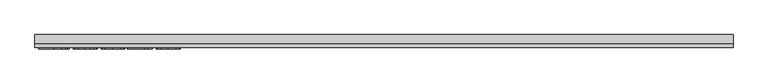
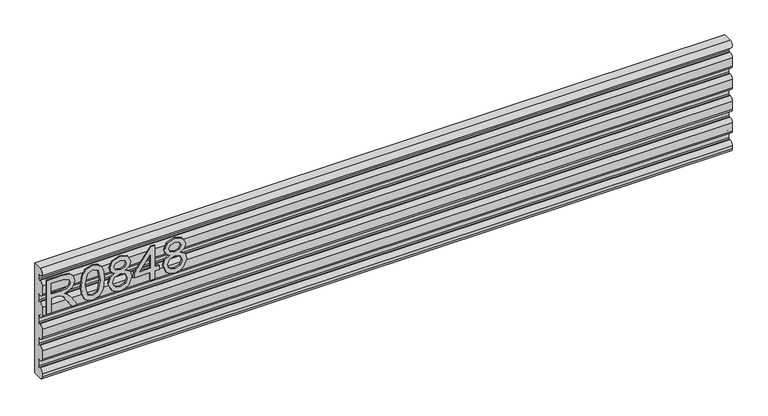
"""IFC4 building model written with IfcOpenShell, lengths in millimetres: furniture geometry."""

import ifcopenshell
import ifcopenshell.guid

model = None  # the IFC model being written
_history = None  # IfcOwnerHistory: only IFC2X3 demands one
_inside = {}  # id of a spatial element -> (the spatial element, [elements in it])
_under = {}  # id of a project, library or spatial element -> (it, [spatial elements below it])
_declared = {}  # id of a project -> (the project, [libraries it declares])
_typed = {}  # id of a type object -> (the type object, [elements of that type])
_made_of = {}  # id of a material, layer set ... -> (it, [elements and type objects made of it])


def new_model(schema):
    """Start an empty IFC model of exactly this schema.

    Asked for "IFC4X3", IfcOpenShell would pick the latest addendum, in which some entities
    have other attributes; the version numbers below select the first issue.
    IFC2X3 requires an IfcOwnerHistory on every rooted entity: one is made here for all.
    """
    global model, _history
    if schema == "IFC4X3":
        model = ifcopenshell.file(schema_version=(4, 3, 0, 0))
    else:
        model = ifcopenshell.file(schema=schema)
    _inside.clear()
    _under.clear()
    _declared.clear()
    _typed.clear()
    _made_of.clear()
    _history = None
    if model.schema == "IFC2X3":
        org = make("IfcOrganization", Name="unknown")
        user = make(
            "IfcPersonAndOrganization",
            ThePerson=make("IfcPerson", FamilyName="unknown"),
            TheOrganization=org,
        )
        app = make(
            "IfcApplication",
            ApplicationDeveloper=org,
            Version="unknown",
            ApplicationFullName="unknown",
            ApplicationIdentifier="unknown",
        )
        _history = make(
            "IfcOwnerHistory",
            OwningUser=user,
            OwningApplication=app,
            ChangeAction="ADDED",
            CreationDate=0,
        )
    return model


def make(cls, **values):
    """One entity of the class cls with the attributes given. An attribute that is None is left unset."""
    return model.create_entity(
        cls, **{name: value for name, value in values.items() if value is not None}
    )


def rooted(cls, **values):
    """An entity with a GlobalId (a new one), such as an element, a storey or a relation."""
    return make(cls, GlobalId=ifcopenshell.guid.new(), OwnerHistory=_history, **values)


def si_unit(unit_type, name, prefix=None):
    """IfcSIUnit, for example si_unit("LENGTHUNIT", "METRE", prefix="MILLI")."""
    return make("IfcSIUnit", UnitType=unit_type, Prefix=prefix, Name=name)


def assignment(units):
    """IfcUnitAssignment: the units of a project."""
    return None if units is None else make("IfcUnitAssignment", Units=units)


def point(xyz):
    """IfcCartesianPoint."""
    return None if xyz is None else make("IfcCartesianPoint", Coordinates=xyz)


def direction(xyz):
    """IfcDirection."""
    return None if xyz is None else make("IfcDirection", DirectionRatios=xyz)


def frame(location, z_axis=None, x_axis=None):
    """IfcAxis2Placement3D, a coordinate frame: its origin and axes. An axis left out is left unset."""
    return make(
        "IfcAxis2Placement3D",
        Location=point(location),
        Axis=direction(z_axis),
        RefDirection=direction(x_axis),
    )


def frame_2d(location, x_axis=None):
    """IfcAxis2Placement2D, a coordinate frame in the plane: its origin and x axis."""
    return make(
        "IfcAxis2Placement2D", Location=point(location), RefDirection=direction(x_axis)
    )


def origin():
    """The frame at (0, 0, 0) with its axes left unset."""
    return frame((0.0, 0.0, 0.0))


def place(relative_to, where):
    """IfcLocalPlacement: puts the frame where relative to a parent placement (None: the world)."""
    return make(
        "IfcLocalPlacement", PlacementRelTo=relative_to, RelativePlacement=where
    )


def context(
    kind, dimensions, precision=None, world=None, true_north=None, identifier=None
):
    """IfcGeometricRepresentationContext, for example the 3D "Model" context."""
    return make(
        "IfcGeometricRepresentationContext",
        ContextIdentifier=identifier,
        ContextType=kind,
        CoordinateSpaceDimension=dimensions,
        Precision=precision,
        WorldCoordinateSystem=world,
        TrueNorth=true_north,
    )


def project(units=None, contexts=None):
    """IfcProject with its units and contexts."""
    return rooted(
        "IfcProject",
        Name="project",
        RepresentationContexts=contexts,
        UnitsInContext=assignment(units),
    )


def spatial(cls, under=None, at=None, **own):
    """A site, building, storey or space (cls), placed at a placement, below another one or the project."""
    s = rooted(cls, ObjectPlacement=at, **own)
    if under is not None:
        _under.setdefault(under.id(), (under, []))[1].append(s)
    return s


def polyline(points):
    """IfcPolyline through the points."""
    return make("IfcPolyline", Points=[point(p) for p in points])


def circle_curve(where, radius):
    """IfcCircle in the frame where."""
    return make("IfcCircle", Position=where, Radius=radius)


def trimmed(basis, trim1, trim2, sense, master):
    """IfcTrimmedCurve: the piece of a basis curve between two trims."""
    return make(
        "IfcTrimmedCurve",
        BasisCurve=basis,
        Trim1=trim1,
        Trim2=trim2,
        SenseAgreement=sense,
        MasterRepresentation=master,
    )


def segment(curve, same_sense, transition):
    """IfcCompositeCurveSegment."""
    return make(
        "IfcCompositeCurveSegment",
        Transition=transition,
        SameSense=same_sense,
        ParentCurve=curve,
    )


def composite_curve(segments, self_intersect=None):
    """IfcCompositeCurve: segments joined end to end."""
    return make("IfcCompositeCurve", Segments=segments, SelfIntersect=self_intersect)


def outline(outer, holes=None, kind="AREA"):
    """IfcArbitraryClosedProfileDef: a profile drawn as a closed curve; with holes, ...WithVoids."""
    if holes is None:
        return make("IfcArbitraryClosedProfileDef", ProfileType=kind, OuterCurve=outer)
    return make(
        "IfcArbitraryProfileDefWithVoids",
        ProfileType=kind,
        OuterCurve=outer,
        InnerCurves=holes,
    )


def extrude(swept, where, along, depth):
    """IfcExtrudedAreaSolid: the profile swept, set in the frame where, extruded along a direction by depth."""
    return make(
        "IfcExtrudedAreaSolid",
        SweptArea=swept,
        Position=where,
        ExtrudedDirection=direction(along),
        Depth=depth,
    )


def shape(context_of_items, identifier, shape_type, items):
    """IfcShapeRepresentation: the items that make up one representation, for example the "Body"."""
    return make(
        "IfcShapeRepresentation",
        ContextOfItems=context_of_items,
        RepresentationIdentifier=identifier,
        RepresentationType=shape_type,
        Items=items,
    )


def source(mapping_origin, context_of_items, identifier, shape_type, items):
    """IfcRepresentationMap: a shape defined once, which mapped items show again and again."""
    return make(
        "IfcRepresentationMap",
        MappingOrigin=mapping_origin,
        MappedRepresentation=shape(context_of_items, identifier, shape_type, items),
    )


def transform(
    local_origin,
    x_axis=None,
    y_axis=None,
    z_axis=None,
    scale=None,
    scale2=None,
    scale3=None,
    uniform=True,
):
    """IfcCartesianTransformationOperator3D, or its non-uniform kind. x_axis, y_axis, z_axis: its Axis1, 2, 3."""
    if uniform:
        return make(
            "IfcCartesianTransformationOperator3D",
            Axis1=direction(x_axis),
            Axis2=direction(y_axis),
            LocalOrigin=point(local_origin),
            Scale=scale,
            Axis3=direction(z_axis),
        )
    return make(
        "IfcCartesianTransformationOperator3DnonUniform",
        Axis1=direction(x_axis),
        Axis2=direction(y_axis),
        LocalOrigin=point(local_origin),
        Scale=scale,
        Axis3=direction(z_axis),
        Scale2=scale2,
        Scale3=scale3,
    )


def mapped(mapping_source, mapping_target):
    """IfcMappedItem: shows the shape of a source again, moved by a transform."""
    return make(
        "IfcMappedItem", MappingSource=mapping_source, MappingTarget=mapping_target
    )


def made_of(thing, what):
    """Note that an element or type object is made of a material, layer set ...; save() writes the relation."""
    if what is not None:
        _made_of.setdefault(what.id(), (what, []))[1].append(thing)
    return thing


def element(
    cls,
    number,
    at=None,
    inside=None,
    cuts=None,
    type_object=None,
    material=None,
    context=None,
    identifier="Body",
    shape_type=None,
    held_by="IfcProductDefinitionShape",
    body=None,
    shapes=None,
    **own,
):
    """One element of the class cls, such as IfcWall. Its Tag is "e" and its number.

    at: its placement. inside: the storey or other place that contains it. cuts: it is an
    opening in that element (IfcRelVoidsElement). A single representation is given by context,
    identifier, shape_type and body (its items); several are given by shapes. held_by: the class
    of the entity that holds the representations. save() writes the other relations.
    """
    e = rooted(cls, Tag="e%d" % number, ObjectPlacement=at, **own)
    if body is not None:
        shapes = [shape(context, identifier, shape_type, body)]
    if shapes is not None:
        e.Representation = make(held_by, Representations=shapes)
    if inside is not None:
        _inside.setdefault(inside.id(), (inside, []))[1].append(e)
    if cuts is not None:
        rooted(
            "IfcRelVoidsElement", RelatingBuildingElement=cuts, RelatedOpeningElement=e
        )
    if type_object is not None:
        _typed.setdefault(type_object.id(), (type_object, []))[1].append(e)
    return made_of(e, material)


def aggregate(whole, parts):
    """IfcRelAggregates: a whole, such as a stair, and the parts it consists of."""
    return rooted("IfcRelAggregates", RelatingObject=whole, RelatedObjects=parts)


def save(model, path):
    """Write the relations noted so far, then the file.

    IfcRelAggregates (storeys below a building ...), IfcRelContainedInSpatialStructure (elements
    in a storey), IfcRelDefinesByType, IfcRelAssociatesMaterial and IfcRelDeclares: one each for
    every whole, place, type object, material and project.
    """
    for whole, parts in _under.values():
        aggregate(whole, parts)
    for where, things in _inside.values():
        rooted(
            "IfcRelContainedInSpatialStructure",
            RelatedElements=things,
            RelatingStructure=where,
        )
    for kind, things in _typed.values():
        rooted("IfcRelDefinesByType", RelatedObjects=things, RelatingType=kind)
    for what, things in _made_of.values():
        rooted("IfcRelAssociatesMaterial", RelatedObjects=things, RelatingMaterial=what)
    for by, libraries in _declared.values():
        rooted("IfcRelDeclares", RelatingContext=by, RelatedDefinitions=libraries)
    model.write(path)


def furniture_25a45a0c(model_context):
    return source(origin(), model_context, "Body", "SweptSolid", [
        extrude(outline(polyline([(882.65, -596.4115385), (882.65, -588.5961538), (910.0038462, -588.5961538), (910.0038462, -579.1627404), (909.7290865, -574.6292067), (908.2408053, -570.9123197), (904.188101, -566.7832933), (895.6094952, -560.9064904), (882.65, -552.7705529), (882.65, -543.6882212), (899.5935096, -554.1138221), (907.6378606, -560.4485577), (910.9807692, -564.8905048), (916.7965144, -551.801262), (928.0616587, -547.5653846), (937.5179688, -550.1221755), (943.4863582, -556.960637), (945.1730769, -569.4698317), (945.1730769, -596.4115385), (882.65, -596.4115385)]), holes=[polyline([(917.8192308, -588.5961538), (937.3576923, -588.5961538), (937.3576923, -569.1340144), (934.6558894, -558.6855168), (927.7716346, -555.3807692), (922.4672476, -557.1132812), (918.9259014, -562.1810697), (917.8192308, -571.103125), (917.8192308, -588.5961538)])]), frame((0.0, -24.60625, 0.0), z_axis=(0.0, 1.0, 0.0), x_axis=(0.0, 0.0, 1.0)), (0.0, 0.0, 1.0), 2.38125),
        extrude(outline(polyline([(913.4078125, -536.8192308), (898.200631, -535.2622596), (887.6262019, -530.5913462), (883.1613582, -524.4245192), (881.6730769, -516.3038462), (885.0999399, -504.8631611), (895.495012, -498.0628606), (913.4078125, -495.7884615), (928.0998197, -497.2080529), (937.3500601, -500.8715144), (943.1581731, -507.1757212), (945.1730769, -516.3038462), (941.7691106, -527.698738), (931.3969351, -534.5219351), (913.4078125, -536.8192308)]), holes=[polyline([(913.4230769, -529.0038462), (933.1752404, -525.2182692), (937.3576923, -516.3954327), (932.6104567, -507.1451923), (913.4230769, -503.6038462), (894.0296274, -507.2673077), (889.4884615, -516.3038462), (894.014363, -525.3403846), (913.4230769, -529.0038462)])]), frame((0.0, -24.60625, 0.0), z_axis=(0.0, 1.0, 0.0), x_axis=(0.0, 0.0, 1.0)), (0.0, 0.0, 1.0), 2.38125),
        extrude(outline(polyline([(917.0865385, -477.5627404), (911.4081731, -485.9887019), (901.0588942, -488.95), (887.2216947, -483.3021635), (883.0602314, -476.7613582), (881.6730769, -468.4346154), (883.0545072, -460.1078726), (887.1987981, -453.5670673), (900.8451923, -447.9192308), (910.9578726, -450.7660457), (917.0865385, -459.077524), (921.9177284, -452.1551082), (929.2828125, -449.8730769), (940.5479567, -455.0019231), (945.1730769, -468.5414663), (940.6548077, -481.9588942), (929.4965144, -486.9961538), (921.940625, -484.6835937), (917.0865385, -477.5627404)]), holes=[polyline([(901.3336538, -481.1346154), (909.6222356, -477.8298678), (912.9346154, -468.6330529), (909.5764423, -459.1691106), (901.0894231, -455.7346154), (892.7626803, -459.0622596), (889.4884615, -468.3735577), (891.0454327, -475.2120192), (895.4492188, -479.8295072), (901.3336538, -481.1346154)]), polyline([(929.2675481, -479.1807692), (934.9764423, -476.3644832), (937.3576923, -468.4346154), (934.9230168, -460.5276442), (928.9164663, -457.6884615), (923.1159856, -460.4360577), (920.75, -468.3430288), (923.13125, -476.4102764), (929.2675481, -479.1807692)])]), frame((0.0, -24.60625, 0.0), z_axis=(0.0, 1.0, 0.0), x_axis=(0.0, 0.0, 1.0)), (0.0, 0.0, 1.0), 2.38125),
        extrude(outline(polyline([(882.65, -415.6807692), (882.65, -407.8653846), (897.3038462, -407.8653846), (897.3038462, -400.05), (905.1192308, -400.05), (905.1192308, -407.8653846), (944.1961538, -407.8653846), (944.1961538, -413.7269231), (905.1192308, -444.0115385), (897.3038462, -444.0115385), (897.3038462, -415.6807692), (882.65, -415.6807692)]), holes=[polyline([(905.1192308, -415.6807692), (905.1192308, -434.3949519), (929.2675481, -415.6807692), (905.1192308, -415.6807692)])]), frame((0.0, -24.60625, 0.0), z_axis=(0.0, 1.0, 0.0), x_axis=(0.0, 0.0, 1.0)), (0.0, 0.0, 1.0), 2.38125),
        extrude(outline(polyline([(917.0865385, -381.8242788), (911.4081731, -390.2502404), (901.0588942, -393.2115385), (887.2216947, -387.5637019), (883.0602314, -381.0228966), (881.6730769, -372.6961538), (883.0545072, -364.3694111), (887.1987981, -357.8286058), (900.8451923, -352.1807692), (910.9578726, -355.0275841), (917.0865385, -363.3390625), (921.9177284, -356.4166466), (929.2828125, -354.1346154), (940.5479567, -359.2634615), (945.1730769, -372.8030048), (940.6548077, -386.2204327), (929.4965144, -391.2576923), (921.940625, -388.9451322), (917.0865385, -381.8242788)]), holes=[polyline([(929.2675481, -383.4423077), (934.9764423, -380.6260216), (937.3576923, -372.6961538), (934.9230168, -364.7891827), (928.9164663, -361.95), (923.1159856, -364.6975962), (920.75, -372.6045673), (923.13125, -380.6718149), (929.2675481, -383.4423077)]), polyline([(901.3336538, -385.3961538), (909.6222356, -382.0914062), (912.9346154, -372.8945913), (909.5764423, -363.430649), (901.0894231, -359.9961538), (892.7626803, -363.3237981), (889.4884615, -372.6350962), (891.0454327, -379.4735577), (895.4492188, -384.0910457), (901.3336538, -385.3961538)])]), frame((0.0, -24.60625, 0.0), z_axis=(0.0, 1.0, 0.0), x_axis=(0.0, 0.0, 1.0)), (0.0, 0.0, 1.0), 2.38125),
        extrude(outline(composite_curve([segment(polyline([(-15.8760163, 965.1962603), (0.0, 965.1987579), (0.0, 762.0024959), (-15.875, 762.0024959)]), True, "CONTINUOUS"), segment(trimmed(circle_curve(frame_2d((-15.875, 768.3499997)), 6.3475038), [point((-15.875, 762.0024959))], [point((-22.2225037, 768.3499997))], False, "CARTESIAN"), True, "CONTINUOUS"), segment(polyline([(-22.2225037, 768.3499997), (-22.2225037, 774.1565144)]), True, "CONTINUOUS"), segment(trimmed(circle_curve(frame_2d((-15.8749436, 774.1565144)), 6.3475601), [point((-22.2225037, 774.1565144))], [point((-15.0857075, 780.4548178))], False, "CARTESIAN"), True, "CONTINUOUS"), segment(trimmed(circle_curve(frame_2d((-1.1337042, 863.6935017)), 84.3998631), [point((-15.0857075, 780.4548178))], [point((-12.9059563, 780.1186791))], True, "CARTESIAN"), True, "CONTINUOUS"), segment(trimmed(circle_curve(frame_2d((-12.700446, 781.6924586)), 1.5871409), [point((-12.9059563, 780.1186791))], [point((-11.1133051, 781.6924586))], True, "CARTESIAN"), True, "CONTINUOUS"), segment(polyline([(-11.1133051, 781.6924586), (-11.1133051, 793.7069593)]), True, "CONTINUOUS"), segment(trimmed(circle_curve(frame_2d((-12.6993283, 793.7069593)), 1.5860232), [point((-11.1133051, 793.7069593))], [point((-12.9060069, 795.2794584))], True, "CARTESIAN"), True, "CONTINUOUS"), segment(trimmed(circle_curve(frame_2d((-1.1352938, 711.7058353)), 84.3984607), [point((-12.9060069, 795.2794584))], [point((-15.0903111, 794.942592))], True, "CARTESIAN"), True, "CONTINUOUS"), segment(trimmed(circle_curve(frame_2d((-15.8834296, 801.2469395)), 6.3540408), [point((-15.0903111, 794.942592))], [point((-22.225, 800.8490464))], False, "CARTESIAN"), True, "CONTINUOUS"), segment(polyline([(-22.225, 800.8490464), (-22.225, 816.2587238)]), True, "CONTINUOUS"), segment(trimmed(circle_curve(frame_2d((-15.8833926, 815.8608997)), 6.3540734), [point((-22.225, 816.2587238))], [point((-15.0903341, 822.1652876))], False, "CARTESIAN"), True, "CONTINUOUS"), segment(trimmed(circle_curve(frame_2d((-1.1353844, 905.4020955)), 84.3985), [point((-15.0903341, 822.1652876))], [point((-12.9062753, 821.8284577))], True, "CARTESIAN"), True, "CONTINUOUS"), segment(trimmed(circle_curve(frame_2d((-12.6998122, 823.4006216)), 1.5856628), [point((-12.9062753, 821.8284577))], [point((-11.1141494, 823.4006216))], True, "CARTESIAN"), True, "CONTINUOUS"), segment(polyline([(-11.1141494, 823.4006216), (-11.1141494, 833.7966127)]), True, "CONTINUOUS"), segment(trimmed(circle_curve(frame_2d((-12.6998093, 833.7966127)), 1.5856599), [point((-11.1141494, 833.7966127))], [point((-12.9062754, 835.3687733))], True, "CARTESIAN"), True, "CONTINUOUS"), segment(trimmed(circle_curve(frame_2d((-1.1353888, 751.7951397)), 84.3984953), [point((-12.9062754, 835.3687733))], [point((-15.0903465, 835.0319415))], True, "CARTESIAN"), True, "CONTINUOUS"), segment(trimmed(circle_curve(frame_2d((-15.8834158, 841.3363673)), 6.3541124), [point((-15.0903465, 835.0319415))], [point((-22.2250421, 840.9382203))], False, "CARTESIAN"), True, "CONTINUOUS"), segment(polyline([(-22.2250421, 840.9382203), (-22.2250421, 856.3483319)]), True, "CONTINUOUS"), segment(trimmed(circle_curve(frame_2d((-15.8834158, 855.9501848)), 6.3541124), [point((-22.2250421, 856.3483319))], [point((-15.0903468, 862.2546107))], False, "CARTESIAN"), True, "CONTINUOUS"), segment(trimmed(circle_curve(frame_2d((-1.1353891, 945.4914132)), 84.398496), [point((-15.0903468, 862.2546107))], [point((-12.9062764, 861.9177789))], True, "CARTESIAN"), True, "CONTINUOUS"), segment(trimmed(circle_curve(frame_2d((-12.6998106, 863.4899388)), 1.5856591), [point((-12.9062764, 861.9177789))], [point((-11.1141515, 863.4899388))], True, "CARTESIAN"), True, "CONTINUOUS"), segment(polyline([(-11.1141515, 863.4899388), (-11.1141515, 873.8860943)]), True, "CONTINUOUS"), segment(trimmed(circle_curve(frame_2d((-12.6998106, 873.8860943)), 1.5856591), [point((-11.1141515, 873.8860943))], [point((-12.9062762, 875.4582542))], True, "CARTESIAN"), True, "CONTINUOUS"), segment(trimmed(circle_curve(frame_2d((-1.135389, 791.8846199)), 84.398496), [point((-12.9062762, 875.4582542))], [point((-15.0903467, 875.1214224))], True, "CARTESIAN"), True, "CONTINUOUS"), segment(trimmed(circle_curve(frame_2d((-15.8834159, 881.4258482)), 6.3541123), [point((-15.0903467, 875.1214224))], [point((-22.225042, 881.0277013))], False, "CARTESIAN"), True, "CONTINUOUS"), segment(polyline([(-22.225042, 881.0277013), (-22.225042, 896.4379807)]), True, "CONTINUOUS"), segment(trimmed(circle_curve(frame_2d((-15.8834159, 896.0398338)), 6.3541123), [point((-22.225042, 896.4379807))], [point((-15.0903468, 902.3442596))], False, "CARTESIAN"), True, "CONTINUOUS"), segment(trimmed(circle_curve(frame_2d((-1.1353891, 985.5810621)), 84.3984961), [point((-15.0903468, 902.3442596))], [point((-12.9062764, 902.0074278))], True, "CARTESIAN"), True, "CONTINUOUS"), segment(trimmed(circle_curve(frame_2d((-12.6998107, 903.5795876)), 1.585659), [point((-12.9062764, 902.0074278))], [point((-11.1141517, 903.5795876))], True, "CARTESIAN"), True, "CONTINUOUS"), segment(polyline([(-11.1141517, 903.5795876), (-11.1141517, 913.9755748)]), True, "CONTINUOUS"), segment(trimmed(circle_curve(frame_2d((-12.6998103, 913.9755748)), 1.5856586), [point((-11.1141517, 913.9755748))], [point((-12.906276, 915.5477342))], True, "CARTESIAN"), True, "CONTINUOUS"), segment(trimmed(circle_curve(frame_2d((-1.1353891, 831.9741004)), 84.3984955), [point((-12.906276, 915.5477342))], [point((-15.0903471, 915.2109023))], True, "CARTESIAN"), True, "CONTINUOUS"), segment(trimmed(circle_curve(frame_2d((-15.8834165, 921.5153276)), 6.3541119), [point((-15.0903471, 915.2109023))], [point((-22.225042, 921.1171779))], False, "CARTESIAN"), True, "CONTINUOUS"), segment(polyline([(-22.225042, 921.1171779), (-22.225042, 936.5272397)]), True, "CONTINUOUS"), segment(trimmed(circle_curve(frame_2d((-15.8834716, 936.1290423)), 6.3540599), [point((-22.225042, 936.5272397))], [point((-15.090343, 942.4334077))], False, "CARTESIAN"), True, "CONTINUOUS"), segment(trimmed(circle_curve(frame_2d((-1.1352996, 1025.6702803)), 84.3985793), [point((-15.090343, 942.4334077))], [point((-12.9060294, 942.0965398))], True, "CARTESIAN"), True, "CONTINUOUS"), segment(trimmed(circle_curve(frame_2d((-12.6993505, 943.6690306)), 1.5860151), [point((-12.9060294, 942.0965398))], [point((-11.1133354, 943.6690306))], True, "CARTESIAN"), True, "CONTINUOUS"), segment(polyline([(-11.1133354, 943.6690306), (-11.1133354, 951.3150339)]), True, "CONTINUOUS"), segment(trimmed(circle_curve(frame_2d((-12.7004555, 951.3150339)), 1.5871201), [point((-11.1133354, 951.3150339))], [point((-12.9059726, 952.8887915))], True, "CARTESIAN"), True, "CONTINUOUS"), segment(trimmed(circle_curve(frame_2d((-1.1337141, 869.3138651)), 84.3999668), [point((-12.9059726, 952.8887915))], [point((-15.0857569, 952.5526475))], True, "CARTESIAN"), True, "CONTINUOUS"), segment(trimmed(circle_curve(frame_2d((-15.8750176, 958.8498197)), 6.3464407), [point((-15.0857569, 952.5526475))], [point((-15.8760163, 965.1962603))], False, "CARTESIAN"), True, "CONTINUOUS")], self_intersect=False)), frame((-603.25, 0.0, 0.0), z_axis=(1.0, 0.0, 0.0), x_axis=(0.0, 1.0, 0.0)), (0.0, 0.0, 1.0), 1206.5),
    ])


if __name__ == "__main__":
    model = new_model("IFC4")
    model_context = context("Model", 3, world=origin())
    ifc_project = project(units=[si_unit("LENGTHUNIT", "METRE", prefix="MILLI")], contexts=[model_context])
    site = spatial("IfcSite", under=ifc_project)
    building = spatial("IfcBuilding", under=site)
    placement = place(None, origin())
    furniture_shape = furniture_25a45a0c(model_context)
    element("IfcFurniture", 1, ObjectType="HermanMiller_Ethospace_E1425_RailTile : 08\"H x 48\"W", at=placement, inside=building, context=model_context, shape_type="MappedRepresentation", body=[
        mapped(furniture_shape, transform((0.0, 0.0, 0.0), x_axis=(1.0, 0.0, 0.0), y_axis=(0.0, 1.0, 0.0), z_axis=(0.0, 0.0, 1.0))),
    ])
    save(model, "model.ifc")
